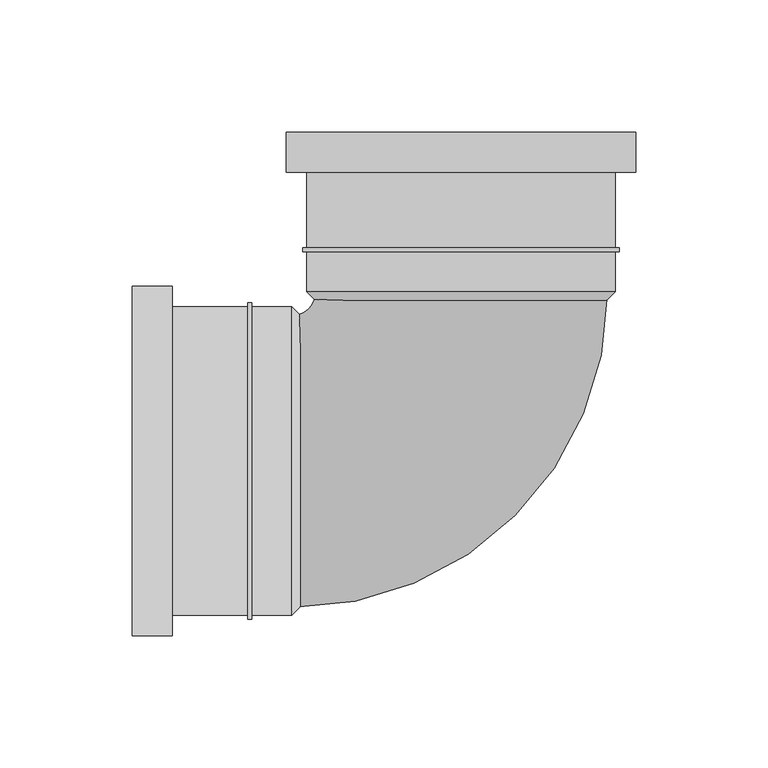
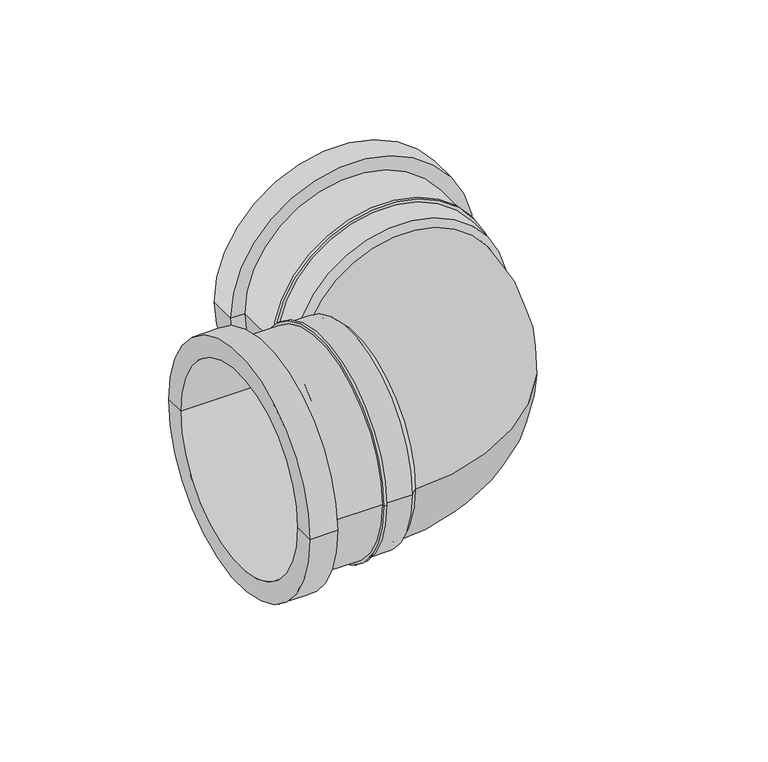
"""IFC4 building model written with IfcOpenShell, lengths in millimetres: pipe fitting geometry, UN_PIF_PP bend S-S_PipeLife : Black, var. DN/OD (max. ø125)."""

from ifc_helpers import new_model, si_unit, point, frame, origin, place, context, project, spatial, polyline, circle_curve, ellipse_curve, trimmed, source, transform, mapped, element, save
from ifc_brep_helpers import plane_surface, cylinder_surface, revolved_surface, advanced_brep


def pipe_fitting_f6df4553(model_context):
    return source(origin(), model_context, "Body", "AdvancedBrep", [
        advanced_brep(
        [(-60.7, 55.0, 0.0), (-60.7, -55.0, 0.0), (-64.0, -58.3, 0.0), (-64.0, 58.3, 0.0), (-124.2, 66.0, 0.0), (-124.2, -66.0, 0.0), (-124.2, -55.0, 0.0), (-124.2, 55.0, 0.0), (-109.15, 66.0, 0.0), (-109.15, -66.0, 0.0), (-109.15, 58.3, 0.0), (-109.15, -58.3, 0.0), (-80.6, 58.3, 0.0), (-80.6, -58.3, 0.0), (-80.6, 59.85, 0.0), (-80.6, -59.85, 0.0), (-79.05, 59.85, 0.0), (-79.05, -59.85, 0.0), (-79.05, 58.3, 0.0), (-79.05, -58.3, 0.0)],
        [
            (0, 1, circle_curve(frame((-60.7, 0.0, 0.0), z_axis=(-1.0, 0.0, 0.0), x_axis=(0.0, -1.0000000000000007, 0.0)), 55.0)),
            (1, 2),
            (2, 3, circle_curve(frame((-64.0, 0.0, 0.0), z_axis=(1.0, 0.0, 0.0), x_axis=(0.0, -1.0000000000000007, 0.0)), 58.3)),
            (3, 0),
            (1, 0, circle_curve(frame((-60.7, 0.0, 0.0), z_axis=(-1.0, 0.0, 0.0), x_axis=(0.0, -1.0000000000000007, 0.0)), 55.0)),
            (3, 2, circle_curve(frame((-64.0, 0.0, 0.0), z_axis=(1.0, 0.0, 0.0), x_axis=(0.0, -1.0000000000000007, 0.0)), 58.3)),
            (4, 5, circle_curve(frame((-124.2, 0.0, 0.0), z_axis=(-1.0, 0.0, 0.0), x_axis=(0.0, -1.0000000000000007, 0.0)), 66.0)),
            (5, 6),
            (6, 7, circle_curve(frame((-124.2, 0.0, 0.0), z_axis=(1.0, 0.0, 0.0), x_axis=(0.0, -1.0000000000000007, 0.0)), 55.0)),
            (7, 4),
            (5, 4, circle_curve(frame((-124.2, 0.0, 0.0), z_axis=(-1.0, 0.0, 0.0), x_axis=(0.0, -1.0000000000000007, 0.0)), 66.0)),
            (7, 6, circle_curve(frame((-124.2, 0.0, 0.0), z_axis=(1.0, 0.0, 0.0), x_axis=(0.0, -1.0000000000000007, 0.0)), 55.0)),
            (8, 9, circle_curve(frame((-109.15, 0.0, 0.0), z_axis=(-1.0, 0.0, 0.0), x_axis=(0.0, -1.0000000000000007, 0.0)), 66.0)),
            (9, 5),
            (4, 8),
            (9, 8, circle_curve(frame((-109.15, 0.0, 0.0), z_axis=(-1.0, 0.0, 0.0), x_axis=(0.0, -1.0000000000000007, 0.0)), 66.0)),
            (10, 11, circle_curve(frame((-109.15, 0.0, 0.0), z_axis=(-1.0, 0.0, 0.0), x_axis=(0.0, -1.0000000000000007, 0.0)), 58.3)),
            (11, 9),
            (8, 10),
            (11, 10, circle_curve(frame((-109.15, 0.0, 0.0), z_axis=(-1.0, 0.0, 0.0), x_axis=(0.0, -1.0000000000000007, 0.0)), 58.3)),
            (12, 13, circle_curve(frame((-80.6, 0.0, 0.0), z_axis=(-1.0, 0.0, 0.0), x_axis=(0.0, -1.0000000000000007, 0.0)), 58.3)),
            (13, 11),
            (10, 12),
            (13, 12, circle_curve(frame((-80.6, 0.0, 0.0), z_axis=(-1.0, 0.0, 0.0), x_axis=(0.0, -1.0000000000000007, 0.0)), 58.3)),
            (14, 15, circle_curve(frame((-80.6, 0.0, 0.0), z_axis=(-1.0, 0.0, 0.0), x_axis=(0.0, -1.0000000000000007, 0.0)), 59.85)),
            (15, 13),
            (12, 14),
            (15, 14, circle_curve(frame((-80.6, 0.0, 0.0), z_axis=(-1.0, 0.0, 0.0), x_axis=(0.0, -1.0000000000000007, 0.0)), 59.85)),
            (16, 17, circle_curve(frame((-79.05, 0.0, 0.0), z_axis=(-1.0, 0.0, 0.0), x_axis=(0.0, -1.0000000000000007, 0.0)), 59.85)),
            (17, 15),
            (14, 16),
            (17, 16, circle_curve(frame((-79.05, 0.0, 0.0), z_axis=(-1.0, 0.0, 0.0), x_axis=(0.0, -1.0000000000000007, 0.0)), 59.85)),
            (18, 19, circle_curve(frame((-79.05, 0.0, 0.0), z_axis=(-1.0, 0.0, 0.0), x_axis=(0.0, -1.0000000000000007, 0.0)), 58.3)),
            (19, 17),
            (16, 18),
            (19, 18, circle_curve(frame((-79.05, 0.0, 0.0), z_axis=(-1.0, 0.0, 0.0), x_axis=(0.0, -1.0000000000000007, 0.0)), 58.3)),
            (2, 19),
            (18, 3),
            (6, 1),
            (0, 7),
        ],
        [
            revolved_surface(polyline([(-64.0, -58.3, 0.0), (-60.7, -55.0, 0.0)]), (-124.2, 0.0, 0.0), (1.0000000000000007, 0.0, 0.0)),
            plane_surface(frame((-124.2, 0.0, 0.0), z_axis=(-1.0, 0.0, 0.0), x_axis=(0.0, -1.0, 0.0))),
            cylinder_surface(frame((-124.2, 0.0, 0.0), z_axis=(1.0000000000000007, 0.0, 0.0), x_axis=(0.0, -1.0000000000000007, 0.0)), 66.0),
            plane_surface(frame((-109.15, 0.0, 0.0), z_axis=(1.0, 0.0, 0.0), x_axis=(0.0, -1.0, 0.0))),
            cylinder_surface(frame((-124.2, 0.0, 0.0), z_axis=(1.0000000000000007, 0.0, 0.0), x_axis=(0.0, -1.0000000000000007, 0.0)), 58.3),
            plane_surface(frame((-80.6, 0.0, 0.0), z_axis=(-1.0, 0.0, 0.0), x_axis=(0.0, -1.0, 0.0))),
            cylinder_surface(frame((-124.2, 0.0, 0.0), z_axis=(1.0000000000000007, 0.0, 0.0), x_axis=(0.0, -1.0000000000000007, 0.0)), 59.85),
            plane_surface(frame((-79.05, 0.0, 0.0), z_axis=(1.0, 0.0, 0.0), x_axis=(0.0, -1.0, 0.0))),
            revolved_surface(polyline([(-60.69999999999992, -55.000000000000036, 0.0), (-124.2, -55.000000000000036, 0.0)]), (-124.2, 0.0, 0.0), (1.0000000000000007, 0.0, 0.0)),
        ],
        [
            (0, [[1, 2, 3, 4]]),
            (0, [[5, -4, 6, -2]]),
            (1, [[7, 8, 9, 10]]),
            (1, [[11, -10, 12, -8]]),
            (2, [[13, 14, -7, 15]]),
            (2, [[16, -15, -11, -14]]),
            (3, [[17, 18, -13, 19]]),
            (3, [[20, -19, -16, -18]]),
            (4, [[21, 22, -17, 23]]),
            (4, [[24, -23, -20, -22]]),
            (5, [[25, 26, -21, 27]]),
            (5, [[28, -27, -24, -26]]),
            (6, [[29, 30, -25, 31]]),
            (6, [[32, -31, -28, -30]]),
            (7, [[33, 34, -29, 35]]),
            (7, [[36, -35, -32, -34]]),
            (4, [[-3, 37, -33, 38]]),
            (4, [[-6, -38, -36, -37]]),
            (8, [[-9, 39, -1, 40]]),
            (8, [[-12, -40, -5, -39]]),
        ],
    ),
        advanced_brep(
        [(55.0, 60.7, 0.0), (-55.0, 60.7, 0.0), (-58.3, 64.0, 0.0), (58.3, 64.0, 0.0), (66.0, 124.2, 0.0), (-66.0, 124.2, 0.0), (-55.0, 124.2, 0.0), (55.0, 124.2, 0.0), (66.0, 109.15, 0.0), (-66.0, 109.15, 0.0), (58.3, 109.15, 0.0), (-58.3, 109.15, 0.0), (58.3, 80.6, 0.0), (-58.3, 80.6, 0.0), (59.85, 80.6, 0.0), (-59.85, 80.6, 0.0), (59.85, 79.05, 0.0), (-59.85, 79.05, 0.0), (58.3, 79.05, 0.0), (-58.3, 79.05, 0.0)],
        [
            (0, 1, circle_curve(frame((0.0, 60.7, 0.0), z_axis=(0.0, 1.0, 0.0), x_axis=(-1.0000000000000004, 0.0, 0.0)), 55.0)),
            (1, 2),
            (2, 3, circle_curve(frame((0.0, 64.0, 0.0), z_axis=(0.0, -1.0, 0.0), x_axis=(-1.0000000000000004, 0.0, 0.0)), 58.3)),
            (3, 0),
            (1, 0, circle_curve(frame((0.0, 60.7, 0.0), z_axis=(0.0, 1.0, 0.0), x_axis=(-1.0000000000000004, 0.0, 0.0)), 55.0)),
            (3, 2, circle_curve(frame((0.0, 64.0, 0.0), z_axis=(0.0, -1.0, 0.0), x_axis=(-1.0000000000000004, 0.0, 0.0)), 58.3)),
            (4, 5, circle_curve(frame((0.0, 124.2, 0.0), z_axis=(0.0, 1.0, 0.0), x_axis=(-1.0000000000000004, 0.0, 0.0)), 66.0)),
            (5, 6),
            (6, 7, circle_curve(frame((0.0, 124.2, 0.0), z_axis=(0.0, -1.0, 0.0), x_axis=(-1.0000000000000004, 0.0, 0.0)), 55.0)),
            (7, 4),
            (5, 4, circle_curve(frame((0.0, 124.2, 0.0), z_axis=(0.0, 1.0, 0.0), x_axis=(-1.0000000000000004, 0.0, 0.0)), 66.0)),
            (7, 6, circle_curve(frame((0.0, 124.2, 0.0), z_axis=(0.0, -1.0, 0.0), x_axis=(-1.0000000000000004, 0.0, 0.0)), 55.0)),
            (8, 9, circle_curve(frame((0.0, 109.15, 0.0), z_axis=(0.0, 1.0, 0.0), x_axis=(-1.0000000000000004, 0.0, 0.0)), 66.0)),
            (9, 5),
            (4, 8),
            (9, 8, circle_curve(frame((0.0, 109.15, 0.0), z_axis=(0.0, 1.0, 0.0), x_axis=(-1.0000000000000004, 0.0, 0.0)), 66.0)),
            (10, 11, circle_curve(frame((0.0, 109.15, 0.0), z_axis=(0.0, 1.0, 0.0), x_axis=(-1.0000000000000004, 0.0, 0.0)), 58.3)),
            (11, 9),
            (8, 10),
            (11, 10, circle_curve(frame((0.0, 109.15, 0.0), z_axis=(0.0, 1.0, 0.0), x_axis=(-1.0000000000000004, 0.0, 0.0)), 58.3)),
            (12, 13, circle_curve(frame((0.0, 80.6, 0.0), z_axis=(0.0, 1.0, 0.0), x_axis=(-1.0000000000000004, 0.0, 0.0)), 58.3)),
            (13, 11),
            (10, 12),
            (13, 12, circle_curve(frame((0.0, 80.6, 0.0), z_axis=(0.0, 1.0, 0.0), x_axis=(-1.0000000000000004, 0.0, 0.0)), 58.3)),
            (14, 15, circle_curve(frame((0.0, 80.6, 0.0), z_axis=(0.0, 1.0, 0.0), x_axis=(-1.0000000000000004, 0.0, 0.0)), 59.85)),
            (15, 13),
            (12, 14),
            (15, 14, circle_curve(frame((0.0, 80.6, 0.0), z_axis=(0.0, 1.0, 0.0), x_axis=(-1.0000000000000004, 0.0, 0.0)), 59.85)),
            (16, 17, circle_curve(frame((0.0, 79.05, 0.0), z_axis=(0.0, 1.0, 0.0), x_axis=(-1.0000000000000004, 0.0, 0.0)), 59.85)),
            (17, 15),
            (14, 16),
            (17, 16, circle_curve(frame((0.0, 79.05, 0.0), z_axis=(0.0, 1.0, 0.0), x_axis=(-1.0000000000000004, 0.0, 0.0)), 59.85)),
            (18, 19, circle_curve(frame((0.0, 79.05, 0.0), z_axis=(0.0, 1.0, 0.0), x_axis=(-1.0000000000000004, 0.0, 0.0)), 58.3)),
            (19, 17),
            (16, 18),
            (19, 18, circle_curve(frame((0.0, 79.05, 0.0), z_axis=(0.0, 1.0, 0.0), x_axis=(-1.0000000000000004, 0.0, 0.0)), 58.3)),
            (2, 19),
            (18, 3),
            (6, 1),
            (0, 7),
        ],
        [
            revolved_surface(polyline([(-58.3, 64.0, 0.0), (-55.0, 60.7, 0.0)]), (0.0, 124.2, 0.0), (0.0, -1.0000000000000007, 0.0)),
            plane_surface(frame((0.0, 124.2, 0.0), z_axis=(0.0, 1.0, 0.0), x_axis=(-1.0, 0.0, 0.0))),
            cylinder_surface(frame((0.0, 124.2, 0.0), z_axis=(0.0, -1.0000000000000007, 0.0), x_axis=(-1.0000000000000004, 0.0, 0.0)), 66.0),
            plane_surface(frame((0.0, 109.15, 0.0), z_axis=(0.0, -1.0, 0.0), x_axis=(-1.0, 0.0, 0.0))),
            cylinder_surface(frame((0.0, 124.2, 0.0), z_axis=(0.0, -1.0000000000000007, 0.0), x_axis=(-1.0000000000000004, 0.0, 0.0)), 58.3),
            plane_surface(frame((0.0, 80.6, 0.0), z_axis=(0.0, 1.0, 0.0), x_axis=(-1.0, 0.0, 0.0))),
            cylinder_surface(frame((0.0, 124.2, 0.0), z_axis=(0.0, -1.0000000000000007, 0.0), x_axis=(-1.0000000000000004, 0.0, 0.0)), 59.85),
            plane_surface(frame((0.0, 79.05, 0.0), z_axis=(0.0, -1.0, 0.0), x_axis=(-1.0, 0.0, 0.0))),
            revolved_surface(polyline([(-55.00000000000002, 60.69999999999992, 0.0), (-55.00000000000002, 124.2, 0.0)]), (0.0, 124.2, 0.0), (0.0, -1.0000000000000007, 0.0)),
        ],
        [
            (0, [[1, 2, 3, 4]]),
            (0, [[5, -4, 6, -2]]),
            (1, [[7, 8, 9, 10]]),
            (1, [[11, -10, 12, -8]]),
            (2, [[13, 14, -7, 15]]),
            (2, [[16, -15, -11, -14]]),
            (3, [[17, 18, -13, 19]]),
            (3, [[20, -19, -16, -18]]),
            (4, [[21, 22, -17, 23]]),
            (4, [[24, -23, -20, -22]]),
            (5, [[25, 26, -21, 27]]),
            (5, [[28, -27, -24, -26]]),
            (6, [[29, 30, -25, 31]]),
            (6, [[32, -31, -28, -30]]),
            (7, [[33, 34, -29, 35]]),
            (7, [[36, -35, -32, -34]]),
            (4, [[-3, 37, -33, 38]]),
            (4, [[-6, -38, -36, -37]]),
            (8, [[-9, 39, -1, 40]]),
            (8, [[-12, -40, -5, -39]]),
        ],
    ),
        advanced_brep(
        [(-64.0, -55.2, 0.0), (-64.0, 55.2, 0.0), (-63.0, -55.2, 0.0), (-63.0, 55.2, 0.0), (-55.2, 63.0, 0.0), (55.2, 63.0, 0.0), (55.2, 64.0, 0.0), (-55.2, 64.0, 0.0)],
        [
            (0, 1, circle_curve(frame((-64.0, 0.0, 0.0), z_axis=(-1.0, 0.0, 0.0), x_axis=(0.0, 1.0, 0.0)), 55.2)),
            (1, 0, circle_curve(frame((-64.0, 0.0, 0.0), z_axis=(-1.0, 0.0, 0.0), x_axis=(0.0, 1.0, 0.0)), 55.2)),
            (0, 2),
            (2, 3, circle_curve(frame((-63.0, 0.0, 0.0), z_axis=(-1.0, 0.0, 0.0), x_axis=(0.0, 1.0, 0.0)), 55.2)),
            (3, 1),
            (3, 2, circle_curve(frame((-63.0, 0.0, 0.0), z_axis=(-1.0, 0.0, 0.0), x_axis=(0.0, 1.0, 0.0)), 55.2)),
            (4, 3, circle_curve(frame((-63.0, 63.0, 0.0), z_axis=(0.0, 0.0, -1.0), x_axis=(0.0, -1.0, 0.0)), 7.8)),
            (2, 5, circle_curve(frame((-63.0, 63.0, 0.0), z_axis=(0.0, 0.0, 1.0), x_axis=(0.0, -1.0, 0.0)), 118.2)),
            (5, 4, circle_curve(frame((0.0, 63.0, 0.0), z_axis=(0.0, -1.0, 0.0), x_axis=(-1.0, 0.0, 0.0)), 55.2)),
            (4, 5, circle_curve(frame((0.0, 63.0, 0.0), z_axis=(0.0, -1.0, 0.0), x_axis=(-1.0, 0.0, 0.0)), 55.2)),
            (6, 7, circle_curve(frame((0.0, 64.0, 0.0), z_axis=(0.0, 1.0, 0.0), x_axis=(-1.0, 0.0, 0.0)), 55.2)),
            (7, 6, circle_curve(frame((0.0, 64.0, 0.0), z_axis=(0.0, 1.0, 0.0), x_axis=(-1.0, 0.0, 0.0)), 55.2)),
            (5, 6),
            (7, 4),
        ],
        [
            plane_surface(frame((-64.0, 0.0, 0.0), z_axis=(-1.0, 0.0, 0.0), x_axis=(0.0, 0.0, 1.0))),
            cylinder_surface(frame((-64.0, 0.0, 0.0), z_axis=(-1.0, 0.0, 0.0), x_axis=(0.0, 1.0, 0.0)), 55.2),
            revolved_surface(trimmed(ellipse_curve(frame((-63.0, 0.0, 0.0), z_axis=(-1.0, 0.0, 0.0), x_axis=(0.0, 1.0, 0.0)), 55.2, 55.2), [point((-63.0, -55.2, 0.0))], [point((-63.0, 55.2, 0.0))], True, "CARTESIAN"), (-63.0, 63.0, 0.0), (0.0, 0.0, 1.0)),
            revolved_surface(trimmed(ellipse_curve(frame((-63.0, 0.0, 0.0), z_axis=(-1.0, 0.0, 0.0), x_axis=(0.0, 1.0, 0.0)), 55.2, 55.2), [point((-63.0, 55.2, 0.0))], [point((-63.0, -55.2, 0.0))], True, "CARTESIAN"), (-63.0, 63.0, 0.0), (0.0, 0.0, 1.0)),
            plane_surface(frame((0.0, 64.0, 0.0), z_axis=(0.0, 1.0, 0.0), x_axis=(0.0, 0.0, 1.0))),
            cylinder_surface(frame((0.0, 63.0, 0.0), z_axis=(0.0, -1.0, 0.0), x_axis=(-1.0, 0.0, 0.0)), 55.2),
        ],
        [
            (0, [[1, 2]]),
            (1, [[-1, 3, 4, 5]]),
            (1, [[-2, -5, 6, -3]]),
            (2, [[7, -4, 8, 9]]),
            (3, [[-8, -6, -7, 10]]),
            (4, [[11, 12]]),
            (5, [[-9, 13, -12, 14]]),
            (5, [[-10, -14, -11, -13]]),
        ],
    ),
    ])


if __name__ == "__main__":
    model = new_model("IFC4")
    model_context = context("Model", 3, world=origin())
    ifc_project = project(units=[si_unit("LENGTHUNIT", "METRE", prefix="MILLI")], contexts=[model_context])
    site = spatial("IfcSite", under=ifc_project)
    building = spatial("IfcBuilding", under=site)
    placement = place(None, origin())
    pipe_fitting_shape = pipe_fitting_f6df4553(model_context)
    element("IfcPipeFitting", 1, ObjectType="UN_PIF_PP bend S-S_PipeLife : Black, var. DN/OD (max. ø125)", at=placement, inside=building, context=model_context, shape_type="MappedRepresentation", body=[
        mapped(pipe_fitting_shape, transform((0.0, 0.0, 0.0), x_axis=(1.0, 0.0, 0.0), y_axis=(0.0, 1.0, 0.0), z_axis=(0.0, 0.0, 1.0))),
    ])
    save(model, "model.ifc")
